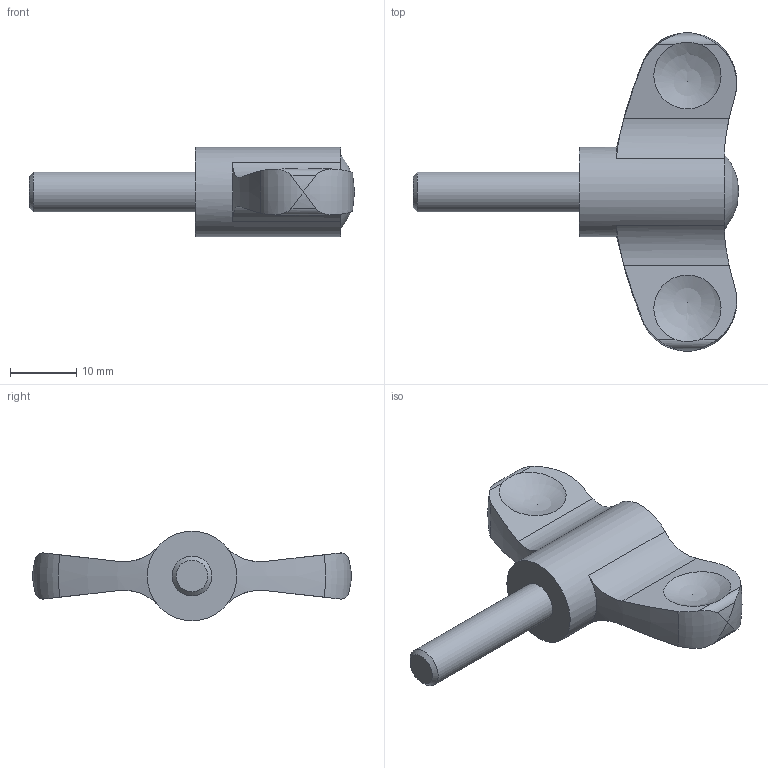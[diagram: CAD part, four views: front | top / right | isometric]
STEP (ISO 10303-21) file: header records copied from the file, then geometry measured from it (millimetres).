
FILE_DESCRIPTION( ( 'STEP AP203' ), '1' );
FILE_NAME( 'C:/Temp/Ganter_Step_05_03_2020/data/2_2/gn_633/Wing nut GN 633-48-M6-25-DGR.stp', '2020-03-05T12:20:39', ( 'License CC BY-ND 4.0' ), ( 'CADENAS' ), ' ', 'PARTsolutions', ' ' );
FILE_SCHEMA( ( 'CONFIG_CONTROL_DESIGN' ) );
Length unit declared in the file: millimetre
Products named in the file (1): _Wing nut GN 633-48-M6-25-DGR
Bounding box: 49 x 48 x 13.5 mm (x, y, z)
Volume: 6397 mm3; surface area: 3012.4 mm2
Topology: 1 solids, 1 shells, 33 faces, 102 edges, 68 vertices
Faces by surface type: cylinder 14, sphere 7, plane 7, bspline 2, torus 2, cone 1
Full cylindrical faces by diameter (mm): 6 x1, 13.5 x1
Entity records: 1450 total; most frequent: CARTESIAN_POINT 638, ORIENTED_EDGE 166, DIRECTION 138, EDGE_CURVE 83, VERTEX_POINT 63, AXIS2_PLACEMENT_3D 59, EDGE_LOOP 38, B_SPLINE_CURVE_WITH_KNOTS 36
